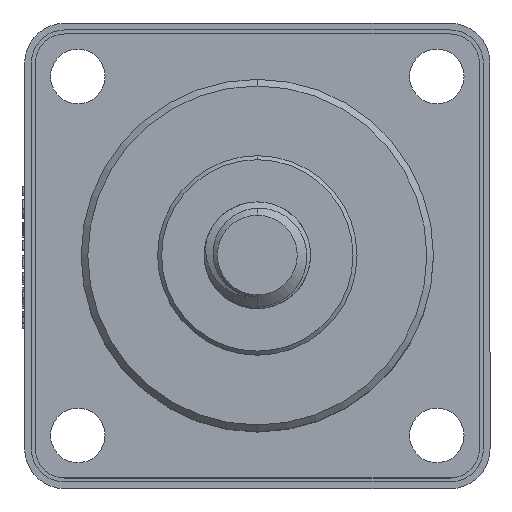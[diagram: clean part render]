
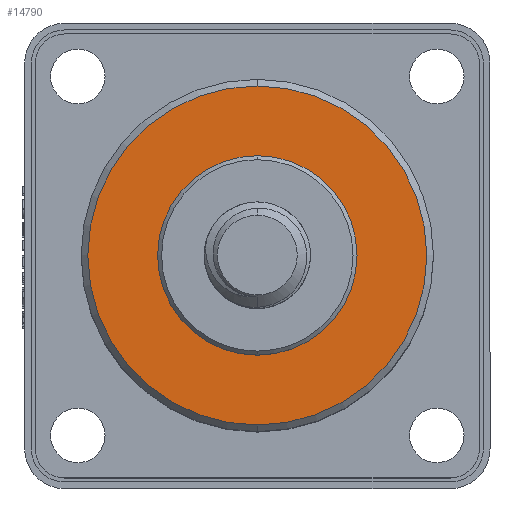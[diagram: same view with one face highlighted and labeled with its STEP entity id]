
A CAD part, top view. The second image highlights one B-rep face of the part: STEP entity #14790.
In plain terms, the highlighted planar face has unit normal (0, 0, 1).
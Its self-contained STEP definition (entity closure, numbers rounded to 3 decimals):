
#493 = VERTEX_POINT ( 'NONE', #6890 ) ;
#566 = DIRECTION ( 'NONE',  ( 0., 0., -1. ) ) ;
#1023 = DIRECTION ( 'NONE',  ( 0., 0., -1. ) ) ;
#1428 = AXIS2_PLACEMENT_3D ( 'NONE', #2031, #12752, #3549 ) ;
#2031 = CARTESIAN_POINT ( 'NONE',  ( 0.977, 1.203, 21.8 ) ) ;
#2227 = VERTEX_POINT ( 'NONE', #14095 ) ;
#2775 = AXIS2_PLACEMENT_3D ( 'NONE', #13609, #4410, #15148 ) ;
#2892 = PLANE ( 'NONE',  #11278 ) ;
#3119 = CIRCLE ( 'NONE', #2775, 12.75 ) ;
#3427 = EDGE_LOOP ( 'NONE', ( #17065, #18672 ) ) ;
#3474 = CARTESIAN_POINT ( 'NONE',  ( 0.977, -11.547, 21.8 ) ) ;
#3549 = DIRECTION ( 'NONE',  ( 0., -1., 0. ) ) ;
#3812 = FACE_OUTER_BOUND ( 'NONE', #7772, .T. ) ;
#4410 = DIRECTION ( 'NONE',  ( 0., 0., -1. ) ) ;
#5351 = EDGE_CURVE ( 'NONE', #16912, #10984, #14489, .T. ) ;
#6415 = CARTESIAN_POINT ( 'NONE',  ( 0.977, 13.953, 21.8 ) ) ;
#6791 = EDGE_CURVE ( 'NONE', #2227, #493, #6919, .T. ) ;
#6890 = CARTESIAN_POINT ( 'NONE',  ( 0.977, 8.703, 21.8 ) ) ;
#6919 = CIRCLE ( 'NONE', #7250, 7.5 ) ;
#7250 = AXIS2_PLACEMENT_3D ( 'NONE', #9696, #566, #11257 ) ;
#7772 = EDGE_LOOP ( 'NONE', ( #14817, #10415 ) ) ;
#9031 = CARTESIAN_POINT ( 'NONE',  ( -3.723, 1.203, 21.8 ) ) ;
#9696 = CARTESIAN_POINT ( 'NONE',  ( 0.977, 1.203, 21.8 ) ) ;
#10171 = CARTESIAN_POINT ( 'NONE',  ( 0.977, 1.203, 21.8 ) ) ;
#10415 = ORIENTED_EDGE ( 'NONE', *, *, #19140, .F. ) ;
#10593 = DIRECTION ( 'NONE',  ( 0., -1., 0. ) ) ;
#10984 = VERTEX_POINT ( 'NONE', #6415 ) ;
#11257 = DIRECTION ( 'NONE',  ( -1., 0., 0. ) ) ;
#11278 = AXIS2_PLACEMENT_3D ( 'NONE', #9031, #19827, #10593 ) ;
#11731 = DIRECTION ( 'NONE',  ( -1., 0., 0. ) ) ;
#12752 = DIRECTION ( 'NONE',  ( 0., 0., -1. ) ) ;
#13609 = CARTESIAN_POINT ( 'NONE',  ( 0.977, 1.203, 21.8 ) ) ;
#13658 = AXIS2_PLACEMENT_3D ( 'NONE', #10171, #1023, #11731 ) ;
#14095 = CARTESIAN_POINT ( 'NONE',  ( 0.977, -6.297, 21.8 ) ) ;
#14489 = CIRCLE ( 'NONE', #1428, 12.75 ) ;
#14790 = ADVANCED_FACE ( 'NONE', ( #18240, #3812 ), #2892, .F. ) ;
#14817 = ORIENTED_EDGE ( 'NONE', *, *, #5351, .F. ) ;
#15148 = DIRECTION ( 'NONE',  ( 0., -1., 0. ) ) ;
#16912 = VERTEX_POINT ( 'NONE', #3474 ) ;
#17065 = ORIENTED_EDGE ( 'NONE', *, *, #6791, .T. ) ;
#17086 = EDGE_CURVE ( 'NONE', #493, #2227, #18309, .T. ) ;
#18240 = FACE_BOUND ( 'NONE', #3427, .T. ) ;
#18309 = CIRCLE ( 'NONE', #13658, 7.5 ) ;
#18672 = ORIENTED_EDGE ( 'NONE', *, *, #17086, .T. ) ;
#19140 = EDGE_CURVE ( 'NONE', #10984, #16912, #3119, .T. ) ;
#19827 = DIRECTION ( 'NONE',  ( 0., 0., -1. ) ) ;
